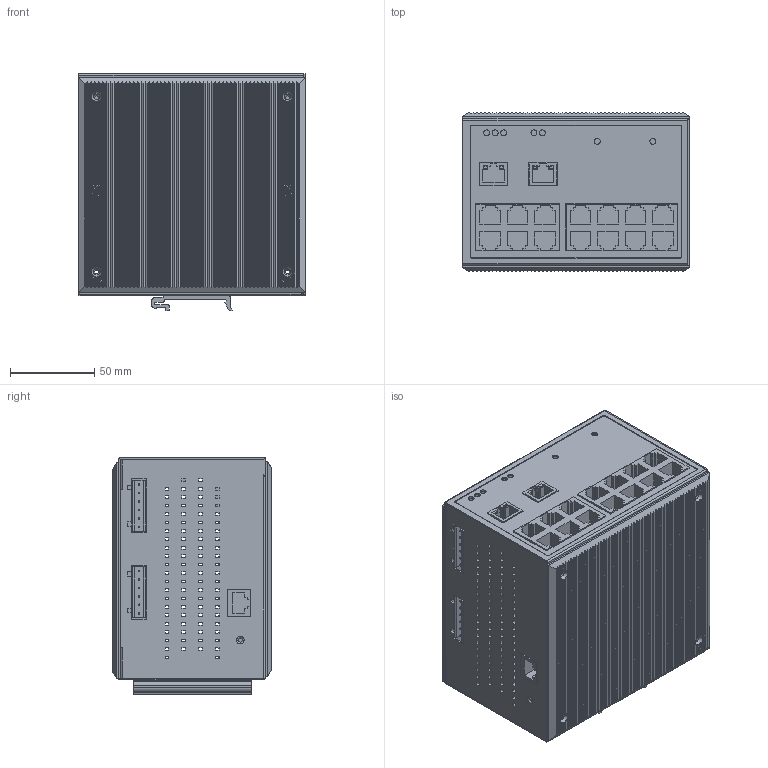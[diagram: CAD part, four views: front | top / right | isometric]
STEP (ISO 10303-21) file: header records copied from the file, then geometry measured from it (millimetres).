
FILE_DESCRIPTION((''),'2;1');
FILE_NAME('EDS-516A','2010-08-20T',('Chialu_Chang'),(''),'PRO/ENGINEER BY PARAMETRIC TECHNOLOGY CORPORATION, 2004440','PRO/ENGINEER BY PARAMETRIC TECHNOLOGY CORPORATION, 2004440','');
FILE_SCHEMA(('CONFIG_CONTROL_DESIGN'));
Products named in the file (1): EDS-516A
Bounding box: 135 x 94.03 x 140.63 mm (x, y, z)
Volume: 276663.8 mm3; surface area: 210274.2 mm2
Topology: 7 solids, 7 shells, 2609 faces, 7443 edges, 4894 vertices
Faces by surface type: plane 1903, cylinder 609, torus 62, cone 30, bspline 5
Entity records: 85495 total; most frequent: CARTESIAN_POINT 16955, ORIENTED_EDGE 14886, DIRECTION 12852, EDGE_CURVE 7443, VECTOR 5860, LINE 5860, VERTEX_POINT 4894, AXIS2_PLACEMENT_3D 3496
